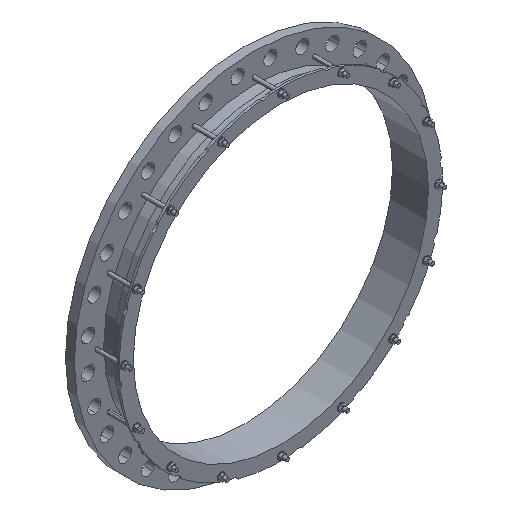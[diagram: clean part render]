
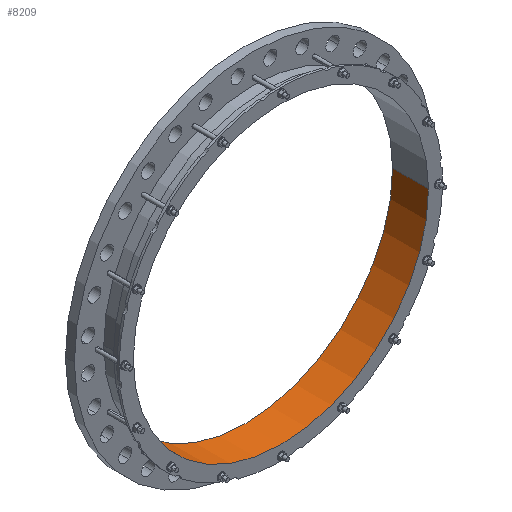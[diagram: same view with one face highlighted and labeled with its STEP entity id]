
A CAD part, isometric view. The second image highlights one B-rep face of the part: STEP entity #8209.
In plain terms, the highlighted cylindrical face has radius 628.75 mm (diameter 1257.5 mm), a partial arc.
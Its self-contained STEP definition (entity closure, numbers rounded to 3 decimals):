
#7=CARTESIAN_POINT('',(0.,38.,0.));
#8=DIRECTION('',(0.,1.,0.));
#9=DIRECTION('',(1.,0.,0.));
#10=AXIS2_PLACEMENT_3D('',#7,#8,#9);
#3245=CARTESIAN_POINT('',(0.,-115.,0.));
#3246=DIRECTION('',(0.,1.,0.));
#3247=DIRECTION('',(1.,0.,0.));
#3248=AXIS2_PLACEMENT_3D('',#3245,#3246,#3247);
#3250=DIRECTION('',(0.,1.,0.));
#3251=VECTOR('',#3250,153.);
#3252=CARTESIAN_POINT('',(628.75,-115.,0.));
#3253=LINE('',#3252,#3251);
#3254=DIRECTION('',(0.,1.,0.));
#3255=VECTOR('',#3254,153.);
#3256=CARTESIAN_POINT('',(-628.75,-115.,0.));
#3257=LINE('',#3256,#3255);
#5638=CARTESIAN_POINT('',(628.75,-115.,0.));
#5639=CARTESIAN_POINT('',(628.75,38.,0.));
#5640=VERTEX_POINT('',#5638);
#5641=VERTEX_POINT('',#5639);
#5646=CARTESIAN_POINT('',(-628.75,-115.,0.));
#5647=CARTESIAN_POINT('',(-628.75,38.,0.));
#5648=VERTEX_POINT('',#5646);
#5649=VERTEX_POINT('',#5647);
#8196=CARTESIAN_POINT('',(0.,-122.65,0.));
#8197=DIRECTION('',(0.,1.,0.));
#8198=DIRECTION('',(-1.,0.,0.));
#8199=AXIS2_PLACEMENT_3D('',#8196,#8197,#8198);
#8200=CYLINDRICAL_SURFACE('',#8199,628.75);
#8202=ORIENTED_EDGE('',*,*,#8201,.F.);
#8203=ORIENTED_EDGE('',*,*,#8189,.T.);
#8205=ORIENTED_EDGE('',*,*,#8204,.T.);
#8206=ORIENTED_EDGE('',*,*,#6853,.F.);
#8207=EDGE_LOOP('',(#8202,#8203,#8205,#8206));
#8208=FACE_OUTER_BOUND('',#8207,.F.);
#8209=ADVANCED_FACE('',(#8208),#8200,.F.);
#11=CIRCLE('',#10,628.75);
#3249=CIRCLE('',#3248,628.75);
#6853=EDGE_CURVE('',#5641,#5649,#11,.T.);
#8189=EDGE_CURVE('',#5640,#5648,#3249,.T.);
#8201=EDGE_CURVE('',#5640,#5641,#3253,.T.);
#8204=EDGE_CURVE('',#5648,#5649,#3257,.T.);
